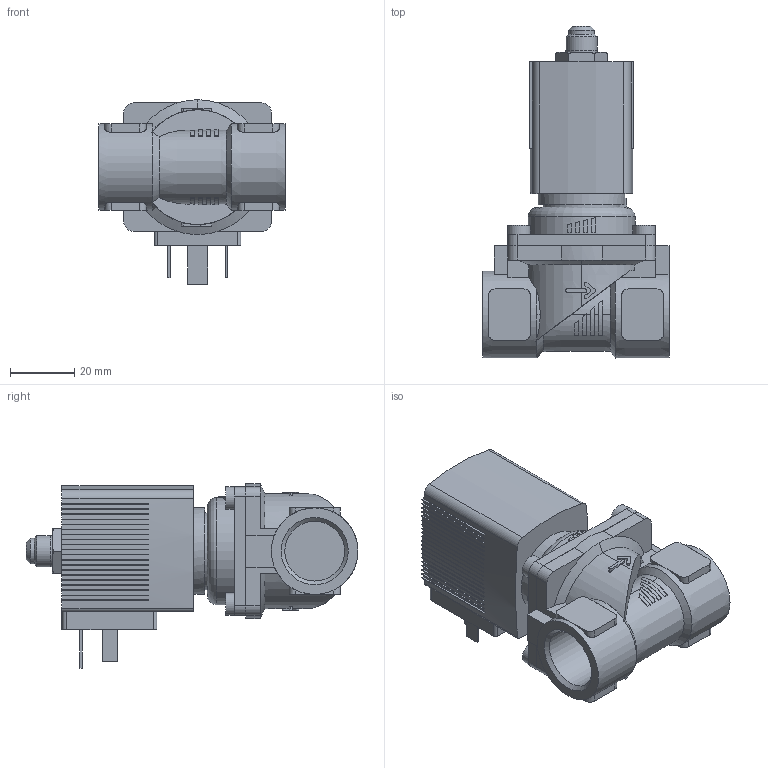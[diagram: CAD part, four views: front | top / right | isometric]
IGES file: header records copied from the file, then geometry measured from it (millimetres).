
Start section: Data from Parasolid IGES Translator 26.0.171, Copyright(c) 2006 Siemens PLM Software. All Rights Reserved.
Global section: file name: 6281-338201-2_2-Way_Solenoid_Valve__Servo-assisted__General_Purpose.igs; native system: By Siemens PLM Incorporated; preprocessor: XPlus GENERIC/IGES 26.0.171; author: Noname; organization: Noname; date: 20240514.213902; units: millimetre
Bounding box: 58 x 103.5 x 57.5 mm (x, y, z)
Surface area: 28491.6 mm2 (no closed solid volume)
Topology: 0 solids, 0 shells, 538 faces, 2982 edges, 2966 vertices
Faces by surface type: extrusion 419, revolution 119
